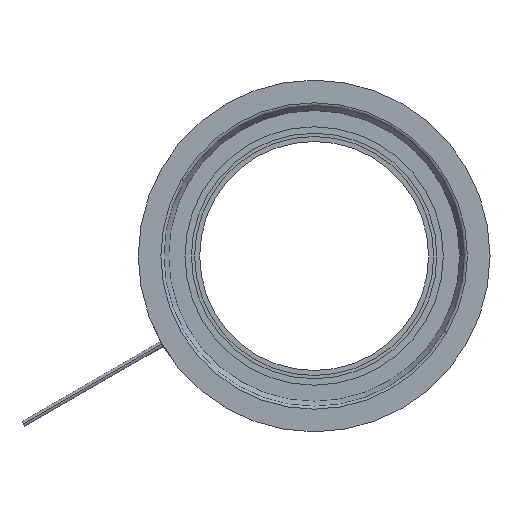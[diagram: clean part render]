
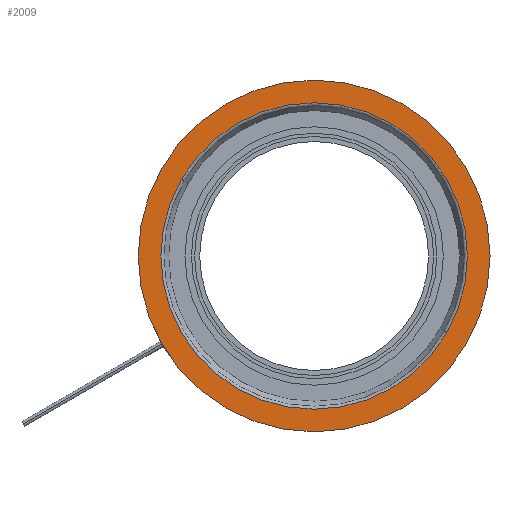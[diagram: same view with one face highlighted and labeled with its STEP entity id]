
A CAD part, front view. The second image highlights one B-rep face of the part: STEP entity #2009.
In plain terms, the highlighted planar face has unit normal (0, -1, 0).
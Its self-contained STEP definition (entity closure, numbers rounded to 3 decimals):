
#379=CARTESIAN_POINT('',(0.,0.,0.));
#380=DIRECTION('',(0.,1.,0.));
#381=DIRECTION('',(0.866,0.,-0.5));
#382=AXIS2_PLACEMENT_3D('',#379,#380,#381);
#384=CARTESIAN_POINT('',(0.,0.,0.));
#385=DIRECTION('',(0.,-1.,0.));
#386=DIRECTION('',(0.866,0.,-0.5));
#387=AXIS2_PLACEMENT_3D('',#384,#385,#386);
#393=CARTESIAN_POINT('',(0.,0.,0.));
#394=DIRECTION('',(0.,-1.,0.));
#395=DIRECTION('',(0.866,0.,-0.5));
#396=AXIS2_PLACEMENT_3D('',#393,#394,#395);
#416=CARTESIAN_POINT('',(0.,0.,0.));
#417=DIRECTION('',(0.,1.,0.));
#418=DIRECTION('',(0.866,0.,-0.5));
#419=AXIS2_PLACEMENT_3D('',#416,#417,#418);
#1252=CARTESIAN_POINT('',(80.367,0.,
-46.4));
#1254=VERTEX_POINT('',#1252);
#1260=CARTESIAN_POINT('',(-80.367,0.,
46.4));
#1262=VERTEX_POINT('',#1260);
#1263=CARTESIAN_POINT('',(92.232,0.,-53.25));
#1264=CARTESIAN_POINT('',(-92.232,0.,53.25));
#1265=VERTEX_POINT('',#1263);
#1266=VERTEX_POINT('',#1264);
#1994=CARTESIAN_POINT('',(0.,0.,0.));
#1995=DIRECTION('',(0.,-1.,0.));
#1996=DIRECTION('',(-0.866,0.,0.5));
#1997=AXIS2_PLACEMENT_3D('',#1994,#1995,#1996);
#1998=PLANE('',#1997);
#2000=ORIENTED_EDGE('',*,*,#1999,.F.);
#2002=ORIENTED_EDGE('',*,*,#2001,.T.);
#2003=EDGE_LOOP('',(#2000,#2002));
#2004=FACE_OUTER_BOUND('',#2003,.F.);
#2005=ORIENTED_EDGE('',*,*,#1973,.F.);
#2006=ORIENTED_EDGE('',*,*,#1989,.T.);
#2007=EDGE_LOOP('',(#2005,#2006));
#2008=FACE_BOUND('',#2007,.F.);
#383=CIRCLE('',#382,92.799);
#388=CIRCLE('',#387,92.799);
#397=CIRCLE('',#396,106.5);
#420=CIRCLE('',#419,106.5);
#1973=EDGE_CURVE('',#1254,#1262,#383,.T.);
#1989=EDGE_CURVE('',#1254,#1262,#388,.T.);
#1999=EDGE_CURVE('',#1265,#1266,#397,.T.);
#2001=EDGE_CURVE('',#1265,#1266,#420,.T.);
#2009=ADVANCED_FACE('',(#2004,#2008),#1998,.T.);
